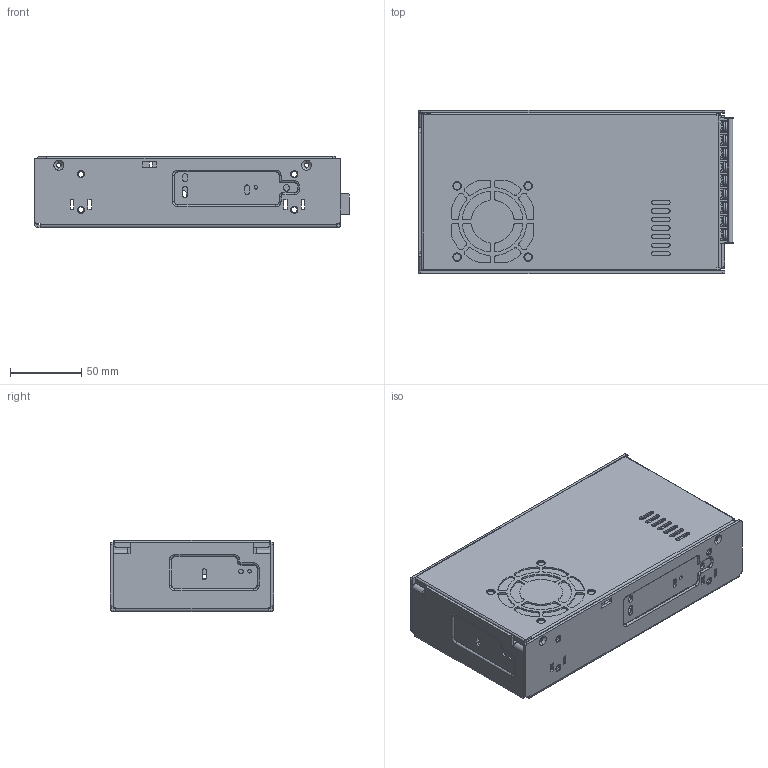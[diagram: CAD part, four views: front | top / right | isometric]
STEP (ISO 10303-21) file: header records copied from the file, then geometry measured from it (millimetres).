
FILE_DESCRIPTION((''),'2;1');
FILE_NAME('PMT-24V350W1AK_1AG_ASM_ASM','2020-12-16T',('EUNICE.HUANG'),(''),'PRO/ENGINEER BY PARAMETRIC TECHNOLOGY CORPORATION, 2015240','PRO/ENGINEER BY PARAMETRIC TECHNOLOGY CORPORATION, 2015240','');
FILE_SCHEMA(('AUTOMOTIVE_DESIGN { 1 0 10303 214 1 1 1 1 }'));
Products named in the file (24): PWB_2_25_2013_3; 1_1; 2_1; 3_1; 4_1; 5_1; 6_1; 7_1; 8_1; 9_1; 10_1; T14-EO3109A301_ASM_1_ASM_ASM_ASM; CASE_ASM_1_ASM_ASM_ASM; COVER-01_3; CASE_ASM_ASM_ASM_ASM; ASM0001_ASM; MANIFOLD_SOLID_BREP_12608; MANIFOLD_SOLID_BREP_12763; ASM0002_ASM; PRT0001; PRT0002; CHASSIS_ASM_2_ASM_ASM_ASM; 12AK-CHASSIS_ASM_ASM; PMT-24V350W1AK_1AG_ASM_ASM
Assembly tree (26 placements, depth 6):
  PMT-24V350W1AK_1AG_ASM_ASM
    ASM0001_ASM
      CASE_ASM_ASM_ASM_ASM
        CASE_ASM_1_ASM_ASM_ASM
          PWB_2_25_2013_3
          T14-EO3109A301_ASM_1_ASM_ASM_ASM
            1_1
            2_1
            3_1
            4_1
            5_1
            6_1
            7_1
            8_1
            9_1
            10_1
        COVER-01_3
    12AK-CHASSIS_ASM_ASM
      CHASSIS_ASM_2_ASM_ASM_ASM
        ASM0002_ASM
          MANIFOLD_SOLID_BREP_12608
          MANIFOLD_SOLID_BREP_12763
        PRT0001  x2
        PRT0002  x3
Bounding box: 221.2 x 115 x 50 mm (x, y, z)
Volume: 180674.5 mm3; surface area: 220765.4 mm2
Topology: 19 solids, 21 shells, 2260 faces, 6461 edges, 4275 vertices
Faces by surface type: plane 1279, cylinder 723, torus 136, bspline 82, cone 40
Entity records: 81960 total; most frequent: CARTESIAN_POINT 22461, ORIENTED_EDGE 12742, DIRECTION 11622, EDGE_CURVE 6371, VERTEX_POINT 4215, AXIS2_PLACEMENT_3D 3934, VECTOR 3754, LINE 3754
